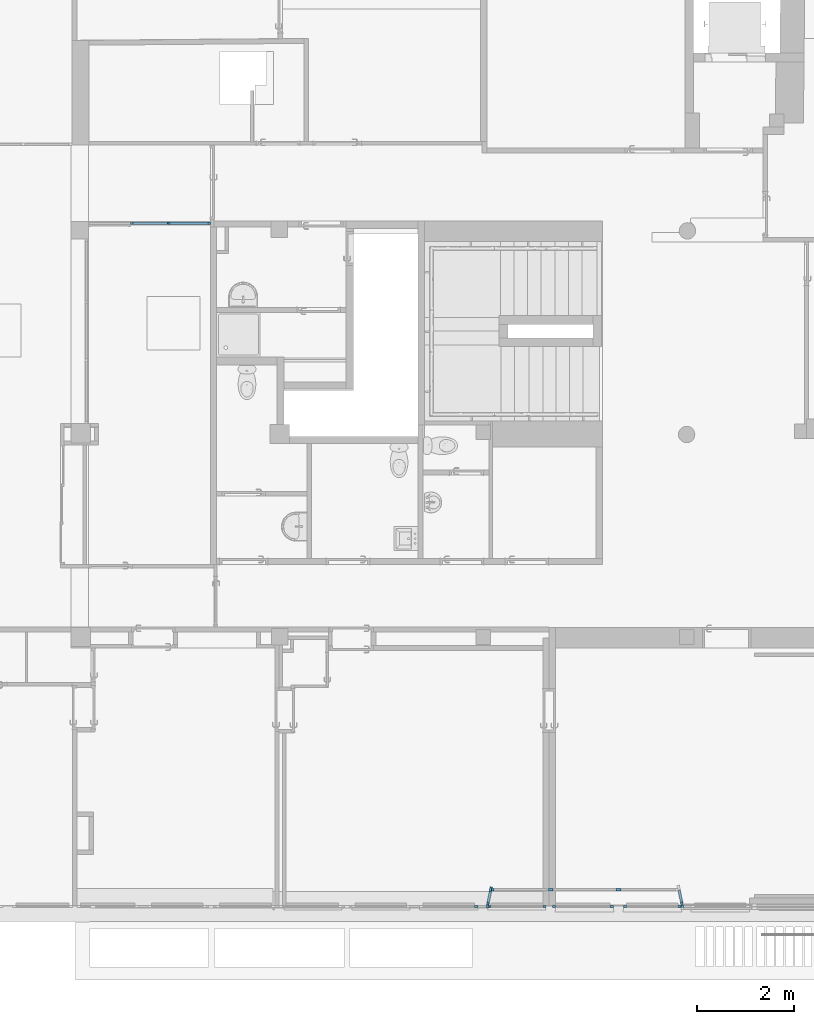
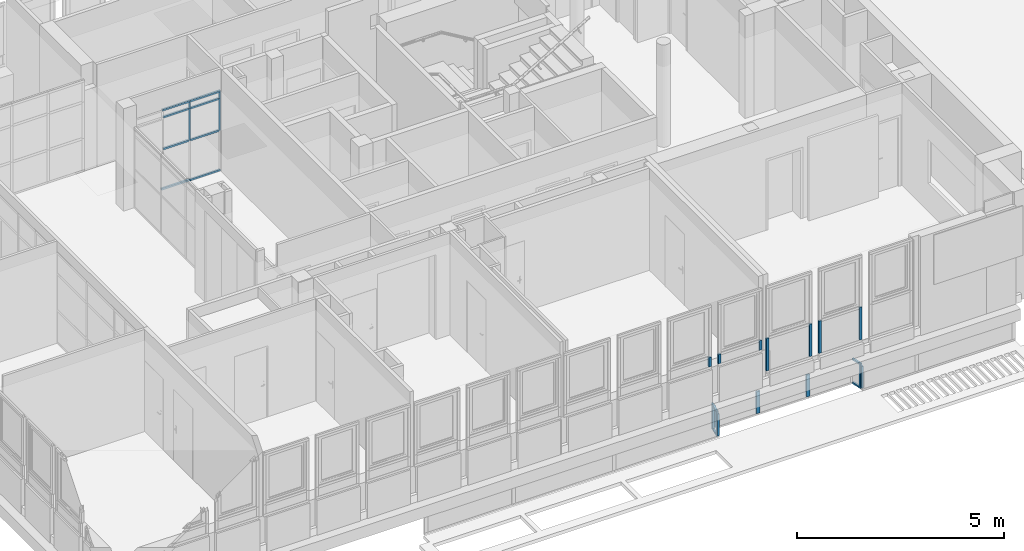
# One storey, part 18 of 97: 31 members, 10 elements without a shape of their own.
"""IFC4 building model written with IfcOpenShell, lengths in metres."""

from ifc_helpers import new_model, entity, si_unit, converted_unit, derived_unit, direction, frame, origin, place, context, subcontext, project, spatial, indexed_curve, outline, extrude, source, transform, mapped, material, type_object, type_shapes, element, aggregate, save


model = new_model("IFC4")

# Units and contexts
model_context = context("Model", 3, precision=1e-05, world=origin(), true_north=direction((6.12303176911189e-17, 1.0)))
body_context = subcontext(model_context, "Body", "Model", "MODEL_VIEW")
ifc_project = project(units=[si_unit("LENGTHUNIT", "METRE"), si_unit("AREAUNIT", "SQUARE_METRE"), si_unit("VOLUMEUNIT", "CUBIC_METRE"), converted_unit("PLANEANGLEUNIT", "DEGREE", entity("IfcRatioMeasure", 0.0174532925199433), si_unit("PLANEANGLEUNIT", "RADIAN"), dimensions=[0, 0, 0, 0, 0, 0, 0]), si_unit("MASSUNIT", "GRAM", prefix="KILO"), derived_unit("MASSDENSITYUNIT", [(si_unit("MASSUNIT", "GRAM", prefix="KILO"), 1), (si_unit("LENGTHUNIT", "METRE"), -3)]), derived_unit("MOMENTOFINERTIAUNIT", [(si_unit("LENGTHUNIT", "METRE"), 4)]), si_unit("TIMEUNIT", "SECOND"), si_unit("FREQUENCYUNIT", "HERTZ"), si_unit("THERMODYNAMICTEMPERATUREUNIT", "DEGREE_CELSIUS"), derived_unit("THERMALTRANSMITTANCEUNIT", [(si_unit("MASSUNIT", "GRAM", prefix="KILO"), 1), (si_unit("THERMODYNAMICTEMPERATUREUNIT", "KELVIN"), -1), (si_unit("TIMEUNIT", "SECOND"), -3)]), derived_unit("VOLUMETRICFLOWRATEUNIT", [(si_unit("LENGTHUNIT", "METRE"), 3), (si_unit("TIMEUNIT", "SECOND"), -1)]), si_unit("ELECTRICCURRENTUNIT", "AMPERE"), si_unit("ELECTRICVOLTAGEUNIT", "VOLT"), si_unit("POWERUNIT", "WATT"), si_unit("FORCEUNIT", "NEWTON", prefix="KILO"), si_unit("ILLUMINANCEUNIT", "LUX"), si_unit("LUMINOUSFLUXUNIT", "LUMEN"), si_unit("LUMINOUSINTENSITYUNIT", "CANDELA"), derived_unit("USERDEFINED", [(si_unit("MASSUNIT", "GRAM", prefix="KILO"), -1), (si_unit("LENGTHUNIT", "METRE"), -2), (si_unit("TIMEUNIT", "SECOND"), 3), (si_unit("LUMINOUSFLUXUNIT", "LUMEN"), 1)]), derived_unit("LINEARVELOCITYUNIT", [(si_unit("LENGTHUNIT", "METRE"), 1), (si_unit("TIMEUNIT", "SECOND"), -1)]), si_unit("PRESSUREUNIT", "PASCAL"), derived_unit("USERDEFINED", [(si_unit("LENGTHUNIT", "METRE"), -2), (si_unit("MASSUNIT", "GRAM", prefix="KILO"), 1), (si_unit("TIMEUNIT", "SECOND"), -2)]), derived_unit("LINEARFORCEUNIT", [(si_unit("MASSUNIT", "GRAM", prefix="KILO"), 1), (si_unit("LENGTHUNIT", "METRE"), 1), (si_unit("TIMEUNIT", "SECOND"), -2), (si_unit("LENGTHUNIT", "METRE"), -1)]), derived_unit("PLANARFORCEUNIT", [(si_unit("MASSUNIT", "GRAM", prefix="KILO"), 1), (si_unit("LENGTHUNIT", "METRE"), 1), (si_unit("TIMEUNIT", "SECOND"), -2), (si_unit("LENGTHUNIT", "METRE"), -2)])], contexts=[model_context])

# Site, building, storey
site_placement = place(None, origin())
site = spatial("IfcSite", under=ifc_project, at=site_placement, Name="Default", CompositionType="ELEMENT")
building_placement = place(site_placement, origin())
building = spatial("IfcBuilding", under=site, at=building_placement, Name="HOTEL CONSULAIRE BOULOGNE SUR MER", CompositionType="ELEMENT")
storey_placement = place(building_placement, frame((0.0, 0.0, 3.62152697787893)))
storey = spatial("IfcBuildingStorey", under=building, at=storey_placement, Name="Niveau 1", CompositionType="ELEMENT", Elevation=3.62152697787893)

# Curtain wall, member
curtain_wall_type = type_object("IfcCurtainWallType", Name="Mur-rideau:Simple panneau", PredefinedType="NOTDEFINED")
curtain_wall_1_placement = place(storey_placement, frame((0.0, 0.0, -3.62152697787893)))
curtain_wall_1 = element("IfcCurtainWall", 1, at=curtain_wall_1_placement, inside=storey, type_object=curtain_wall_type, Name="Mur-rideau:Simple panneau", ObjectType="Mur-rideau:Simple panneau", PredefinedType="NOTDEFINED")
ifc_material = material(Name="PVC - Blanc", Category="Plastique")
member_type_1 = type_object("IfcMemberType", Name="Meneau rectangulaire:50 x 25mm", PredefinedType="MULLION", material=ifc_material)
shared_shape_1 = source(origin(), body_context, "Body", "SweptSolid", [
    extrude(outline(indexed_curve([(-0.025, -0.025), (0.025, -0.025), (0.025, 0.025), (-0.025, 0.025), (-0.025, -0.025)], self_intersect=False)), frame((-0.025, -0.025, -0.642526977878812), z_axis=(0.0, 0.0, 1.0), x_axis=(0.0, -1.0, 0.0)), (0.0, 0.0, 1.0), 0.642526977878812),
])
type_shapes(member_type_1, [shared_shape_1])
member_1_placement = place(storey_placement, frame((7.04517677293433, -29.5980671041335, -0.61300000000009), z_axis=(0.0, 0.0, 1.0), x_axis=(-1.0, 0.0, 0.0)))
member_1 = element("IfcMember", 2, at=member_1_placement, type_object=member_type_1, material=ifc_material, Name="Meneau rectangulaire:50 x 25mm", ObjectType="Meneau rectangulaire:50 x 25mm", PredefinedType="MULLION", context=body_context, shape_type="MappedRepresentation", body=[
    mapped(shared_shape_1, transform((0.0, 0.0, 0.0), scale=1.0)),
])
aggregate(curtain_wall_1, [member_1])

curtain_wall_2_placement = place(storey_placement, frame((0.0, 0.0, -3.62152697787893)))
curtain_wall_2 = element("IfcCurtainWall", 3, at=curtain_wall_2_placement, inside=storey, type_object=curtain_wall_type, Name="Mur-rideau:Simple panneau", ObjectType="Mur-rideau:Simple panneau", PredefinedType="NOTDEFINED")
member_2_placement = place(storey_placement, frame((3.08622682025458, -29.5510671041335, -0.61300000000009)))
member_2 = element("IfcMember", 4, at=member_2_placement, type_object=member_type_1, material=ifc_material, Name="Meneau rectangulaire:50 x 25mm", ObjectType="Meneau rectangulaire:50 x 25mm", PredefinedType="MULLION", context=body_context, shape_type="MappedRepresentation", body=[
    mapped(shared_shape_1, transform((0.0, 0.0, 0.0), scale=1.0)),
])
aggregate(curtain_wall_2, [member_2])

# Curtain wall, members
curtain_wall_3_placement = place(storey_placement, frame((0.0, 0.0, -3.62152697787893)))
curtain_wall_3 = element("IfcCurtainWall", 5, at=curtain_wall_3_placement, inside=storey, type_object=curtain_wall_type, Name="Mur-rideau:Simple panneau", ObjectType="Mur-rideau:Simple panneau", PredefinedType="NOTDEFINED")
member_3_placement = place(storey_placement, frame((3.13741738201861, -29.2557686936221, -0.61300000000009), z_axis=(0.0, 0.0, 1.0), x_axis=(-1.0, 0.0, 0.0)))
member_3 = element("IfcMember", 6, at=member_3_placement, type_object=member_type_1, material=ifc_material, Name="Meneau rectangulaire:50 x 25mm", ObjectType="Meneau rectangulaire:50 x 25mm", PredefinedType="MULLION", context=body_context, shape_type="MappedRepresentation", body=[
    mapped(shared_shape_1, transform((0.0, 0.0, 0.0), scale=1.0)),
])
member_type_2 = type_object("IfcMemberType", Name="Meneau rectangulaire:50 x 50 mm", PredefinedType="MULLION", material=ifc_material)
shared_shape_2 = source(origin(), body_context, "Body", "SweptSolid", [
    extrude(outline(indexed_curve([(-0.025, -0.05), (0.025, -0.05), (0.025, 0.05), (-0.025, 0.05), (-0.025, -0.05)], self_intersect=False)), frame((0.0, -0.025, -0.642526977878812), z_axis=(0.0, 0.0, 1.0), x_axis=(0.0, -1.0, 0.0)), (0.0, 0.0, 1.0), 0.642526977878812),
])
type_shapes(member_type_2, [shared_shape_2])
member_4_placement = place(storey_placement, frame((5.75813741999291, -29.2557686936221, -1.2555269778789), z_axis=(0.0, 0.0, -1.0), x_axis=(1.0, 0.0, 0.0)))
member_4 = element("IfcMember", 7, at=member_4_placement, type_object=member_type_2, material=ifc_material, Name="Meneau rectangulaire:50 x 50 mm", ObjectType="Meneau rectangulaire:50 x 50 mm", PredefinedType="MULLION", context=body_context, shape_type="MappedRepresentation", body=[
    mapped(shared_shape_2, transform((0.0, 0.0, 0.0), scale=1.0)),
])
member_5_placement = place(storey_placement, frame((4.36341738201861, -29.2557686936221, -1.2555269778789), z_axis=(0.0, 0.0, -1.0), x_axis=(1.0, 0.0, 0.0)))
member_5 = element("IfcMember", 8, at=member_5_placement, type_object=member_type_2, material=ifc_material, Name="Meneau rectangulaire:50 x 50 mm", ObjectType="Meneau rectangulaire:50 x 50 mm", PredefinedType="MULLION", context=body_context, shape_type="MappedRepresentation", body=[
    mapped(shared_shape_2, transform((0.0, 0.0, 0.0), scale=1.0)),
])
aggregate(curtain_wall_3, [member_3, member_4, member_5])

curtain_wall_4_placement = place(storey_placement, frame((0.0, 0.0, -3.62152697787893)))
curtain_wall_4 = element("IfcCurtainWall", 9, at=curtain_wall_4_placement, inside=storey, type_object=curtain_wall_type, Name="Mur-rideau:Simple panneau", ObjectType="Mur-rideau:Simple panneau", PredefinedType="NOTDEFINED")
member_type_3 = type_object("IfcMemberType", Name="Meneau rectangulaire:50 x 25mm", PredefinedType="MULLION", material=ifc_material)
shared_shape_3 = source(origin(), body_context, "Body", "SweptSolid", [
    extrude(outline(indexed_curve([(-0.025, -0.025), (0.025, -0.025), (0.025, 0.025), (-0.025, 0.025), (-0.025, -0.025)], self_intersect=False)), frame((-0.025, -0.025, -0.742526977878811), z_axis=(0.0, 0.0, 1.0), x_axis=(0.0, -1.0, 0.0)), (0.0, 0.0, 1.0), 0.742526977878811),
])
type_shapes(member_type_3, [shared_shape_3])
member_6_placement = place(storey_placement, frame((3.08622682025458, -29.5510671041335, -0.56300000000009), z_axis=(0.0, 0.0, 1.0), x_axis=(-0.190808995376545, -0.981627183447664, 0.0)))
member_6 = element("IfcMember", 10, at=member_6_placement, type_object=member_type_3, material=ifc_material, Name="Meneau rectangulaire:50 x 25mm", ObjectType="Meneau rectangulaire:50 x 25mm", PredefinedType="MULLION", context=body_context, shape_type="MappedRepresentation", body=[
    mapped(shared_shape_3, transform((0.0, 0.0, 0.0), scale=1.0)),
])
member_type_4 = type_object("IfcMemberType", Name="Meneau rectangulaire:50 x 25mm", PredefinedType="MULLION", material=ifc_material)
shared_shape_4 = source(origin(), body_context, "Body", "SweptSolid", [
    extrude(outline(indexed_curve([(-0.025, -0.025), (0.025, -0.025), (0.025, 0.025), (-0.025, 0.025), (-0.025, -0.025)], self_intersect=False)), frame((-0.025, -0.025, -0.232999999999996), z_axis=(0.0, 0.0, 1.0), x_axis=(0.0, -1.0, 0.0)), (0.0, 0.0, 1.0), 0.233),
])
type_shapes(member_type_4, [shared_shape_4])
member_7_placement = place(storey_placement, frame((3.14022576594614, -29.2732666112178, -0.56300000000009), z_axis=(0.190808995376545, 0.981627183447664, 0.0), x_axis=(0.0, 0.0, 1.0)))
member_7 = element("IfcMember", 11, at=member_7_placement, type_object=member_type_4, material=ifc_material, Name="Meneau rectangulaire:50 x 25mm", ObjectType="Meneau rectangulaire:50 x 25mm", PredefinedType="MULLION", context=body_context, shape_type="MappedRepresentation", body=[
    mapped(shared_shape_4, transform((0.0, 0.0, 0.0), scale=1.0)),
])
member_type_5 = type_object("IfcMemberType", Name="Meneau rectangulaire:50 x 50 mm", PredefinedType="MULLION", material=ifc_material)
shared_shape_5 = source(origin(), body_context, "Body", "SweptSolid", [
    extrude(outline(indexed_curve([(-0.025, -0.05), (0.025, -0.05), (0.025, 0.05), (-0.025, 0.05), (-0.025, -0.05)], self_intersect=False)), frame((-0.05, -0.025, -0.742526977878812), z_axis=(0.0, 0.0, 1.0), x_axis=(0.0, -1.0, 0.0)), (0.0, 0.0, 1.0), 0.742526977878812),
])
type_shapes(member_type_5, [shared_shape_5])
member_8_placement = place(storey_placement, frame((3.1593066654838, -29.175103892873, -1.3055269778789), z_axis=(0.0, 0.0, -1.0), x_axis=(0.190808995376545, 0.981627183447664, 0.0)))
member_8 = element("IfcMember", 12, at=member_8_placement, type_object=member_type_5, material=ifc_material, Name="Meneau rectangulaire:50 x 50 mm", ObjectType="Meneau rectangulaire:50 x 50 mm", PredefinedType="MULLION", context=body_context, shape_type="MappedRepresentation", body=[
    mapped(shared_shape_5, transform((0.0, 0.0, 0.0), scale=1.0)),
])
member_type_6 = type_object("IfcMemberType", Name="Meneau rectangulaire:50 x 25mm", PredefinedType="MULLION", material=ifc_material)
shared_shape_6 = source(origin(), body_context, "Body", "SweptSolid", [
    extrude(outline(indexed_curve([(-0.025, -0.025), (0.025, -0.025), (0.025, 0.025), (-0.025, 0.025), (-0.025, -0.025)], self_intersect=False)), frame((-0.025, -0.025, -0.232999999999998), z_axis=(0.0, 0.0, 1.0), x_axis=(0.0, -1.0, 0.0)), (0.0, 0.0, 1.0), 0.232999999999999),
])
type_shapes(member_type_6, [shared_shape_6])
member_9_placement = place(storey_placement, frame((3.09576727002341, -29.5019857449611, -1.3055269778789), z_axis=(-0.190808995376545, -0.981627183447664, 0.0), x_axis=(0.0, 0.0, -1.0)))
member_9 = element("IfcMember", 13, at=member_9_placement, type_object=member_type_6, material=ifc_material, Name="Meneau rectangulaire:50 x 25mm", ObjectType="Meneau rectangulaire:50 x 25mm", PredefinedType="MULLION", context=body_context, shape_type="MappedRepresentation", body=[
    mapped(shared_shape_6, transform((0.0, 0.0, 0.0), scale=1.0)),
])
aggregate(curtain_wall_4, [member_6, member_7, member_8, member_9])

curtain_wall_5_placement = place(storey_placement, frame((0.0, 0.0, -3.62152697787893)))
curtain_wall_5 = element("IfcCurtainWall", 14, at=curtain_wall_5_placement, inside=storey, type_object=curtain_wall_type, Name="Mur-rideau:Simple panneau", ObjectType="Mur-rideau:Simple panneau", PredefinedType="NOTDEFINED")
member_type_7 = type_object("IfcMemberType", Name="Meneau rectangulaire:50 x 25mm", PredefinedType="MULLION", material=ifc_material)
shared_shape_7 = source(origin(), body_context, "Body", "SweptSolid", [
    extrude(outline(indexed_curve([(-0.025, -0.025), (0.025, -0.025), (0.025, 0.025), (-0.025, 0.025), (-0.025, -0.025)], self_intersect=False)), frame((-0.025, 0.025, -0.742526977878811), z_axis=(0.0, 0.0, 1.0), x_axis=(0.0, -1.0, 0.0)), (0.0, 0.0, 1.0), 0.742526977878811),
])
type_shapes(member_type_7, [shared_shape_7])
member_10_placement = place(storey_placement, frame((7.04694705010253, -29.5380671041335, -0.56300000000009), z_axis=(0.0, 0.0, 1.0), x_axis=(0.207911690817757, -0.978147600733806, 0.0)))
member_10 = element("IfcMember", 15, at=member_10_placement, type_object=member_type_7, material=ifc_material, Name="Meneau rectangulaire:50 x 25mm", ObjectType="Meneau rectangulaire:50 x 25mm", PredefinedType="MULLION", context=body_context, shape_type="MappedRepresentation", body=[
    mapped(shared_shape_7, transform((0.0, 0.0, 0.0), scale=1.0)),
])
member_type_8 = type_object("IfcMemberType", Name="Meneau rectangulaire:50 x 25mm", PredefinedType="MULLION", material=ifc_material)
shared_shape_8 = source(origin(), body_context, "Body", "SweptSolid", [
    extrude(outline(indexed_curve([(-0.025, -0.025), (0.025, -0.025), (0.025, 0.025), (-0.025, 0.025), (-0.025, -0.025)], self_intersect=False)), frame((-0.025, 0.025, -0.251776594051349), z_axis=(0.0, 0.0, 1.0), x_axis=(0.0, -1.0, 0.0)), (0.0, 0.0, 1.0), 0.251776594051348),
])
type_shapes(member_type_8, [shared_shape_8])
member_11_placement = place(storey_placement, frame((6.98420416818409, -29.2428850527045, -0.56300000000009), z_axis=(-0.207911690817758, 0.978147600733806, 0.0), x_axis=(0.0, 0.0, 1.0)))
member_11 = element("IfcMember", 16, at=member_11_placement, type_object=member_type_8, material=ifc_material, Name="Meneau rectangulaire:50 x 25mm", ObjectType="Meneau rectangulaire:50 x 25mm", PredefinedType="MULLION", context=body_context, shape_type="MappedRepresentation", body=[
    mapped(shared_shape_8, transform((0.0, 0.0, 0.0), scale=1.0)),
])
member_type_9 = type_object("IfcMemberType", Name="Meneau rectangulaire:50 x 25mm", PredefinedType="MULLION", material=ifc_material)
shared_shape_9 = source(origin(), body_context, "Body", "SweptSolid", [
    extrude(outline(indexed_curve([(-0.025, -0.025), (0.025, -0.025), (0.025, 0.025), (-0.025, 0.025), (-0.025, -0.025)], self_intersect=False)), frame((-0.025, 0.025, -0.251776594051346), z_axis=(0.0, 0.0, 1.0), x_axis=(0.0, -1.0, 0.0)), (0.0, 0.0, 1.0), 0.251776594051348),
])
type_shapes(member_type_9, [shared_shape_9])
member_12_placement = place(storey_placement, frame((7.03655146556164, -29.4891597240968, -1.3055269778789), z_axis=(0.207911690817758, -0.978147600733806, 0.0), x_axis=(0.0, 0.0, -1.0)))
member_12 = element("IfcMember", 17, at=member_12_placement, type_object=member_type_9, material=ifc_material, Name="Meneau rectangulaire:50 x 25mm", ObjectType="Meneau rectangulaire:50 x 25mm", PredefinedType="MULLION", context=body_context, shape_type="MappedRepresentation", body=[
    mapped(shared_shape_9, transform((0.0, 0.0, 0.0), scale=1.0)),
])
aggregate(curtain_wall_5, [member_10, member_11, member_12])

# Curtain wall, member
curtain_wall_6_placement = place(storey_placement, frame((0.0, 0.0, -3.62152697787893)))
curtain_wall_6 = element("IfcCurtainWall", 18, at=curtain_wall_6_placement, inside=storey, type_object=curtain_wall_type, Name="Mur-rideau:Simple panneau", ObjectType="Mur-rideau:Simple panneau", PredefinedType="NOTDEFINED")
member_type_10 = type_object("IfcMemberType", Name="Meneau rectangulaire:50 x 35", PredefinedType="MULLION", material=ifc_material)
shared_shape_10 = source(origin(), body_context, "Body", "SweptSolid", [
    extrude(outline(indexed_curve([(-0.025, -0.035), (0.025, -0.035), (0.025, 0.035), (-0.025, 0.035), (-0.025, -0.035)], self_intersect=False)), frame((-0.035, -0.025, -0.278), z_axis=(0.0, 0.0, 1.0), x_axis=(0.0, -1.0, 0.0)), (0.0, 0.0, 1.0), 0.278),
])
type_shapes(member_type_10, [shared_shape_10])
member_13_placement = place(storey_placement, frame((3.05858002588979, -29.5501047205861, 0.861612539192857), z_axis=(0.0, 0.0, -1.0), x_axis=(-1.0, 0.0, 0.0)))
member_13 = element("IfcMember", 19, at=member_13_placement, type_object=member_type_10, material=ifc_material, Name="Meneau rectangulaire:50 x 35", ObjectType="Meneau rectangulaire:50 x 35", PredefinedType="MULLION", context=body_context, shape_type="MappedRepresentation", body=[
    mapped(shared_shape_10, transform((0.0, 0.0, 0.0), scale=1.0)),
])

curtain_wall_7_placement = place(storey_placement, frame((0.0, 0.0, -3.62152697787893)))
curtain_wall_7 = element("IfcCurtainWall", 20, at=curtain_wall_7_placement, inside=storey, type_object=curtain_wall_type, Name="Mur-rideau:Simple panneau", ObjectType="Mur-rideau:Simple panneau", PredefinedType="NOTDEFINED")
member_type_11 = type_object("IfcMemberType", Name="Meneau rectangulaire:50 x 35", PredefinedType="MULLION", material=ifc_material)
shared_shape_11 = source(origin(), body_context, "Body", "SweptSolid", [
    extrude(outline(indexed_curve([(-0.025, -0.035), (0.025, -0.035), (0.025, 0.035), (-0.025, 0.035), (-0.025, -0.035)], self_intersect=False)), frame((-0.035, -0.025, -0.278), z_axis=(0.0, 0.0, 1.0), x_axis=(0.0, -1.0, 0.0)), (0.0, 0.0, 1.0), 0.278),
])
type_shapes(member_type_11, [shared_shape_11])
member_14_placement = place(storey_placement, frame((2.85858002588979, -29.5501047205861, 1.13961253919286)))
member_14 = element("IfcMember", 21, at=member_14_placement, type_object=member_type_11, material=ifc_material, Name="Meneau rectangulaire:50 x 35", ObjectType="Meneau rectangulaire:50 x 35", PredefinedType="MULLION", context=body_context, shape_type="MappedRepresentation", body=[
    mapped(shared_shape_11, transform((0.0, 0.0, 0.0), scale=1.0)),
])
aggregate(curtain_wall_7, [member_14])

# Member
member_15_placement = place(storey_placement, frame((4.26858002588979, -29.5501047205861, 1.13961253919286)))
member_15 = element("IfcMember", 22, at=member_15_placement, type_object=member_type_11, material=ifc_material, Name="Meneau rectangulaire:50 x 35", ObjectType="Meneau rectangulaire:50 x 35", PredefinedType="MULLION", context=body_context, shape_type="MappedRepresentation", body=[
    mapped(shared_shape_11, transform((0.0, 0.0, 0.0), scale=1.0)),
])

aggregate(curtain_wall_6, [member_13, member_15])

# Curtain wall, member
curtain_wall_8_placement = place(storey_placement, frame((0.0, 0.0, -3.62152697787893)))
curtain_wall_8 = element("IfcCurtainWall", 23, at=curtain_wall_8_placement, inside=storey, type_object=curtain_wall_type, Name="Mur-rideau:Simple panneau", ObjectType="Mur-rideau:Simple panneau", PredefinedType="NOTDEFINED")
member_type_12 = type_object("IfcMemberType", Name="Meneau rectangulaire:50 x 35", PredefinedType="MULLION", material=ifc_material)
shared_shape_12 = source(origin(), body_context, "Body", "SweptSolid", [
    extrude(outline(indexed_curve([(-0.025, -0.035), (0.025, -0.035), (0.025, 0.035), (-0.025, 0.035), (-0.025, -0.035)], self_intersect=False)), frame((-0.035, -0.025, -0.954), z_axis=(0.0, 0.0, 1.0), x_axis=(0.0, -1.0, 0.0)), (0.0, 0.0, 1.0), 0.954),
])
type_shapes(member_type_12, [shared_shape_12])
member_16_placement = place(storey_placement, frame((4.39358002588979, -29.5501047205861, 0.186102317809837), z_axis=(0.0, 0.0, -1.0), x_axis=(-1.0, 0.0, 0.0)))
member_16 = element("IfcMember", 24, at=member_16_placement, type_object=member_type_12, material=ifc_material, Name="Meneau rectangulaire:50 x 35", ObjectType="Meneau rectangulaire:50 x 35", PredefinedType="MULLION", context=body_context, shape_type="MappedRepresentation", body=[
    mapped(shared_shape_12, transform((0.0, 0.0, 0.0), scale=1.0)),
])

curtain_wall_9_placement = place(storey_placement, frame((0.0, 0.0, -3.62152697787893)))
curtain_wall_9 = element("IfcCurtainWall", 25, at=curtain_wall_9_placement, inside=storey, type_object=curtain_wall_type, Name="Mur-rideau:Simple panneau", ObjectType="Mur-rideau:Simple panneau", PredefinedType="NOTDEFINED")
member_17_placement = place(storey_placement, frame((5.85858002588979, -29.5501047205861, 0.186102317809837), z_axis=(0.0, 0.0, -1.0), x_axis=(-1.0, 0.0, 0.0)))
member_17 = element("IfcMember", 26, at=member_17_placement, type_object=member_type_12, material=ifc_material, Name="Meneau rectangulaire:50 x 35", ObjectType="Meneau rectangulaire:50 x 35", PredefinedType="MULLION", context=body_context, shape_type="MappedRepresentation", body=[
    mapped(shared_shape_12, transform((0.0, 0.0, 0.0), scale=1.0)),
])

# Member
member_type_13 = type_object("IfcMemberType", Name="Meneau rectangulaire:50 x 35", PredefinedType="MULLION", material=ifc_material)
shared_shape_13 = source(origin(), body_context, "Body", "SweptSolid", [
    extrude(outline(indexed_curve([(-0.025, -0.035), (0.025, -0.035), (0.025, 0.035), (-0.025, 0.035), (-0.025, -0.035)], self_intersect=False)), frame((-0.035, -0.025, -0.954), z_axis=(0.0, 0.0, 1.0), x_axis=(0.0, -1.0, 0.0)), (0.0, 0.0, 1.0), 0.954),
])
type_shapes(member_type_13, [shared_shape_13])
member_18_placement = place(storey_placement, frame((5.65858002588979, -29.5501047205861, 1.14010231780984)))
member_18 = element("IfcMember", 27, at=member_18_placement, type_object=member_type_13, material=ifc_material, Name="Meneau rectangulaire:50 x 35", ObjectType="Meneau rectangulaire:50 x 35", PredefinedType="MULLION", context=body_context, shape_type="MappedRepresentation", body=[
    mapped(shared_shape_13, transform((0.0, 0.0, 0.0), scale=1.0)),
])

aggregate(curtain_wall_8, [member_16, member_18])

member_19_placement = place(storey_placement, frame((7.05858002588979, -29.5501047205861, 1.14010231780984)))
member_19 = element("IfcMember", 28, at=member_19_placement, type_object=member_type_13, material=ifc_material, Name="Meneau rectangulaire:50 x 35", ObjectType="Meneau rectangulaire:50 x 35", PredefinedType="MULLION", context=body_context, shape_type="MappedRepresentation", body=[
    mapped(shared_shape_13, transform((0.0, 0.0, 0.0), scale=1.0)),
])

aggregate(curtain_wall_9, [member_17, member_19])

# Curtain wall, members
curtain_wall_10_placement = place(storey_placement, frame((0.0, 0.0, -3.62152697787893)))
curtain_wall_10 = element("IfcCurtainWall", 29, at=curtain_wall_10_placement, inside=storey, type_object=curtain_wall_type, Name="Mur-rideau:Simple panneau", ObjectType="Mur-rideau:Simple panneau", PredefinedType="NOTDEFINED")
member_type_14 = type_object("IfcMemberType", Name="Meneau rectangulaire:50 x 25mm", PredefinedType="MULLION", material=ifc_material)
shared_shape_14 = source(origin(), body_context, "Body", "SweptSolid", [
    extrude(outline(indexed_curve([(-0.025, -0.025), (0.025, -0.025), (0.025, 0.025), (-0.025, 0.025), (-0.025, -0.025)], self_intersect=False)), frame((-0.025, -0.025, -0.76), z_axis=(0.0, 0.0, 1.0), x_axis=(0.0, -1.0, 0.0)), (0.0, 0.0, 1.0), 0.76),
])
type_shapes(member_type_14, [shared_shape_14])
member_20_placement = place(storey_placement, frame((-3.52052868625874, -15.5068590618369, 2.36709646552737), z_axis=(1.0, 0.0, 0.0), x_axis=(0.0, 0.0, 1.0)))
member_20 = element("IfcMember", 30, at=member_20_placement, type_object=member_type_14, material=ifc_material, Name="Meneau rectangulaire:50 x 25mm", ObjectType="Meneau rectangulaire:50 x 25mm", PredefinedType="MULLION", context=body_context, shape_type="MappedRepresentation", body=[
    mapped(shared_shape_14, transform((0.0, 0.0, 0.0), scale=1.0)),
])
member_type_15 = type_object("IfcMemberType", Name="Meneau rectangulaire:50 x 25mm", PredefinedType="MULLION", material=ifc_material)
shared_shape_15 = source(origin(), body_context, "Body", "SweptSolid", [
    extrude(outline(indexed_curve([(-0.025, -0.025), (0.025, -0.025), (0.025, 0.025), (-0.025, 0.025), (-0.025, -0.025)], self_intersect=False)), frame((-0.025, -0.025, -0.859999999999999), z_axis=(0.0, 0.0, 1.0), x_axis=(0.0, -1.0, 0.0)), (0.0, 0.0, 1.0), 0.859999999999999),
])
type_shapes(member_type_15, [shared_shape_15])
member_21_placement = place(storey_placement, frame((-2.66052868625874, -15.5068590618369, 2.36709646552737), z_axis=(1.0, 0.0, 0.0), x_axis=(0.0, 0.0, 1.0)))
member_21 = element("IfcMember", 31, at=member_21_placement, type_object=member_type_15, material=ifc_material, Name="Meneau rectangulaire:50 x 25mm", ObjectType="Meneau rectangulaire:50 x 25mm", PredefinedType="MULLION", context=body_context, shape_type="MappedRepresentation", body=[
    mapped(shared_shape_15, transform((0.0, 0.0, 0.0), scale=1.0)),
])
member_type_16 = type_object("IfcMemberType", Name="Meneau rectangulaire:50 x 25mm", PredefinedType="MULLION", material=ifc_material)
shared_shape_16 = source(origin(), body_context, "Body", "SweptSolid", [
    extrude(outline(indexed_curve([(-0.025, -0.025), (0.025, -0.025), (0.025, 0.025), (-0.025, 0.025), (-0.025, -0.025)], self_intersect=False)), frame((0.0, -0.025, -0.710000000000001), z_axis=(0.0, 0.0, 1.0), x_axis=(0.0, -1.0, 0.0)), (0.0, 0.0, 1.0), 0.710000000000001),
])
type_shapes(member_type_16, [shared_shape_16])
member_22_placement = place(storey_placement, frame((-3.54552868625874, -15.5068590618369, 2.13339646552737), z_axis=(1.0, 0.0, 0.0), x_axis=(0.0, 0.0, 1.0)))
member_22 = element("IfcMember", 32, at=member_22_placement, type_object=member_type_16, material=ifc_material, Name="Meneau rectangulaire:50 x 25mm", ObjectType="Meneau rectangulaire:50 x 25mm", PredefinedType="MULLION", context=body_context, shape_type="MappedRepresentation", body=[
    mapped(shared_shape_16, transform((0.0, 0.0, 0.0), scale=1.0)),
])
member_23_placement = place(storey_placement, frame((-3.54552868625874, -15.5068590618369, 1.19739646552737), z_axis=(1.0, 0.0, 0.0), x_axis=(0.0, 0.0, 1.0)))
member_23 = element("IfcMember", 33, at=member_23_placement, type_object=member_type_16, material=ifc_material, Name="Meneau rectangulaire:50 x 25mm", ObjectType="Meneau rectangulaire:50 x 25mm", PredefinedType="MULLION", context=body_context, shape_type="MappedRepresentation", body=[
    mapped(shared_shape_16, transform((0.0, 0.0, 0.0), scale=1.0)),
])
member_type_17 = type_object("IfcMemberType", Name="Meneau rectangulaire:50 x 25mm", PredefinedType="MULLION", material=ifc_material)
shared_shape_17 = source(origin(), body_context, "Body", "SweptSolid", [
    extrude(outline(indexed_curve([(-0.025, -0.025), (0.025, -0.025), (0.025, 0.025), (-0.025, 0.025), (-0.025, -0.025)], self_intersect=False)), frame((0.0, -0.025, -0.785), z_axis=(0.0, 0.0, 1.0), x_axis=(0.0, -1.0, 0.0)), (0.0, 0.0, 1.0), 0.785),
])
type_shapes(member_type_17, [shared_shape_17])
member_24_placement = place(storey_placement, frame((-2.71052868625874, -15.5068590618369, 2.13339646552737), z_axis=(1.0, 0.0, 0.0), x_axis=(0.0, 0.0, 1.0)))
member_24 = element("IfcMember", 34, at=member_24_placement, type_object=member_type_17, material=ifc_material, Name="Meneau rectangulaire:50 x 25mm", ObjectType="Meneau rectangulaire:50 x 25mm", PredefinedType="MULLION", context=body_context, shape_type="MappedRepresentation", body=[
    mapped(shared_shape_17, transform((0.0, 0.0, 0.0), scale=1.0)),
])
member_25_placement = place(storey_placement, frame((-2.71052868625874, -15.5068590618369, 1.19739646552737), z_axis=(1.0, 0.0, 0.0), x_axis=(0.0, 0.0, 1.0)))
member_25 = element("IfcMember", 35, at=member_25_placement, type_object=member_type_17, material=ifc_material, Name="Meneau rectangulaire:50 x 25mm", ObjectType="Meneau rectangulaire:50 x 25mm", PredefinedType="MULLION", context=body_context, shape_type="MappedRepresentation", body=[
    mapped(shared_shape_17, transform((0.0, 0.0, 0.0), scale=1.0)),
])
member_type_18 = type_object("IfcMemberType", Name="Meneau rectangulaire:50 x 25mm", PredefinedType="MULLION", material=ifc_material)
shared_shape_18 = source(origin(), body_context, "Body", "SweptSolid", [
    extrude(outline(indexed_curve([(-0.025, -0.025), (0.025, -0.025), (0.025, 0.025), (-0.025, 0.025), (-0.025, -0.025)], self_intersect=False)), frame((0.0, -0.025, -0.183699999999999), z_axis=(0.0, 0.0, 1.0), x_axis=(0.0, -1.0, 0.0)), (0.0, 0.0, 1.0), 0.183699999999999),
])
type_shapes(member_type_18, [shared_shape_18])
member_26_placement = place(storey_placement, frame((-3.52052868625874, -15.5068590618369, 2.13339646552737), z_axis=(0.0, 0.0, -1.0), x_axis=(1.0, 0.0, 0.0)))
member_26 = element("IfcMember", 36, at=member_26_placement, type_object=member_type_18, material=ifc_material, Name="Meneau rectangulaire:50 x 25mm", ObjectType="Meneau rectangulaire:50 x 25mm", PredefinedType="MULLION", context=body_context, shape_type="MappedRepresentation", body=[
    mapped(shared_shape_18, transform((0.0, 0.0, 0.0), scale=1.0)),
])
member_type_19 = type_object("IfcMemberType", Name="Meneau rectangulaire:50 x 25mm", PredefinedType="MULLION", material=ifc_material)
shared_shape_19 = source(origin(), body_context, "Body", "SweptSolid", [
    extrude(outline(indexed_curve([(-0.025, -0.025), (0.025, -0.025), (0.025, 0.025), (-0.025, 0.025), (-0.025, -0.025)], self_intersect=False)), frame((0.0, -0.025, -0.936000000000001), z_axis=(0.0, 0.0, 1.0), x_axis=(0.0, -1.0, 0.0)), (0.0, 0.0, 1.0), 0.936000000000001),
])
type_shapes(member_type_19, [shared_shape_19])
member_27_placement = place(storey_placement, frame((-3.52052868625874, -15.5068590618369, 1.19739646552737), z_axis=(0.0, 0.0, -1.0), x_axis=(1.0, 0.0, 0.0)))
member_27 = element("IfcMember", 37, at=member_27_placement, type_object=member_type_19, material=ifc_material, Name="Meneau rectangulaire:50 x 25mm", ObjectType="Meneau rectangulaire:50 x 25mm", PredefinedType="MULLION", context=body_context, shape_type="MappedRepresentation", body=[
    mapped(shared_shape_19, transform((0.0, 0.0, 0.0), scale=1.0)),
])
member_type_20 = type_object("IfcMemberType", Name="Meneau rectangulaire:50 x 25mm", PredefinedType="MULLION", material=ifc_material)
shared_shape_20 = source(origin(), body_context, "Body", "SweptSolid", [
    extrude(outline(indexed_curve([(-0.025, -0.025), (0.025, -0.025), (0.025, 0.025), (-0.025, 0.025), (-0.025, -0.025)], self_intersect=False)), frame((-0.025, -0.025, -0.183699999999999), z_axis=(0.0, 0.0, 1.0), x_axis=(0.0, -1.0, 0.0)), (0.0, 0.0, 1.0), 0.183699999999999),
])
type_shapes(member_type_20, [shared_shape_20])
member_28_placement = place(storey_placement, frame((-2.66052868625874, -15.5068590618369, 2.13339646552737), z_axis=(0.0, 0.0, -1.0), x_axis=(1.0, 0.0, 0.0)))
member_28 = element("IfcMember", 38, at=member_28_placement, type_object=member_type_20, material=ifc_material, Name="Meneau rectangulaire:50 x 25mm", ObjectType="Meneau rectangulaire:50 x 25mm", PredefinedType="MULLION", context=body_context, shape_type="MappedRepresentation", body=[
    mapped(shared_shape_20, transform((0.0, 0.0, 0.0), scale=1.0)),
])
member_type_21 = type_object("IfcMemberType", Name="Meneau rectangulaire:50 x 25mm", PredefinedType="MULLION", material=ifc_material)
shared_shape_21 = source(origin(), body_context, "Body", "SweptSolid", [
    extrude(outline(indexed_curve([(-0.025, -0.025), (0.025, -0.025), (0.025, 0.025), (-0.025, 0.025), (-0.025, -0.025)], self_intersect=False)), frame((-0.025, -0.025, -0.936000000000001), z_axis=(0.0, 0.0, 1.0), x_axis=(0.0, -1.0, 0.0)), (0.0, 0.0, 1.0), 0.936000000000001),
])
type_shapes(member_type_21, [shared_shape_21])
member_29_placement = place(storey_placement, frame((-2.66052868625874, -15.5068590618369, 1.19739646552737), z_axis=(0.0, 0.0, -1.0), x_axis=(1.0, 0.0, 0.0)))
member_29 = element("IfcMember", 39, at=member_29_placement, type_object=member_type_21, material=ifc_material, Name="Meneau rectangulaire:50 x 25mm", ObjectType="Meneau rectangulaire:50 x 25mm", PredefinedType="MULLION", context=body_context, shape_type="MappedRepresentation", body=[
    mapped(shared_shape_21, transform((0.0, 0.0, 0.0), scale=1.0)),
])
member_type_22 = type_object("IfcMemberType", Name="Meneau rectangulaire:50 x 25mm", PredefinedType="MULLION", material=ifc_material)
shared_shape_22 = source(origin(), body_context, "Body", "SweptSolid", [
    extrude(outline(indexed_curve([(-0.025, -0.025), (0.025, -0.025), (0.025, 0.025), (-0.025, 0.025), (-0.025, -0.025)], self_intersect=False)), frame((-0.025, -0.025, -0.785), z_axis=(0.0, 0.0, 1.0), x_axis=(0.0, -1.0, 0.0)), (0.0, 0.0, 1.0), 0.785),
])
type_shapes(member_type_22, [shared_shape_22])
member_30_placement = place(storey_placement, frame((-4.30552868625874, -15.5068590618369, 0.0), z_axis=(-1.0, 0.0, 0.0), x_axis=(0.0, 0.0, -1.0)))
member_30 = element("IfcMember", 40, at=member_30_placement, type_object=member_type_22, material=ifc_material, Name="Meneau rectangulaire:50 x 25mm", ObjectType="Meneau rectangulaire:50 x 25mm", PredefinedType="MULLION", context=body_context, shape_type="MappedRepresentation", body=[
    mapped(shared_shape_22, transform((0.0, 0.0, 0.0), scale=1.0)),
])
member_type_23 = type_object("IfcMemberType", Name="Meneau rectangulaire:50 x 25mm", PredefinedType="MULLION", material=ifc_material)
shared_shape_23 = source(origin(), body_context, "Body", "SweptSolid", [
    extrude(outline(indexed_curve([(-0.025, -0.025), (0.025, -0.025), (0.025, 0.025), (-0.025, 0.025), (-0.025, -0.025)], self_intersect=False)), frame((-0.025, -0.025, -0.86), z_axis=(0.0, 0.0, 1.0), x_axis=(0.0, -1.0, 0.0)), (0.0, 0.0, 1.0), 0.86),
])
type_shapes(member_type_23, [shared_shape_23])
member_31_placement = place(storey_placement, frame((-3.52052868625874, -15.5068590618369, 0.0), z_axis=(-1.0, 0.0, 0.0), x_axis=(0.0, 0.0, -1.0)))
member_31 = element("IfcMember", 41, at=member_31_placement, type_object=member_type_23, material=ifc_material, Name="Meneau rectangulaire:50 x 25mm", ObjectType="Meneau rectangulaire:50 x 25mm", PredefinedType="MULLION", context=body_context, shape_type="MappedRepresentation", body=[
    mapped(shared_shape_23, transform((0.0, 0.0, 0.0), scale=1.0)),
])
aggregate(curtain_wall_10, [member_20, member_21, member_22, member_24, member_26, member_27, member_23, member_25, member_28, member_29, member_30, member_31])

save(model, "model.ifc")
